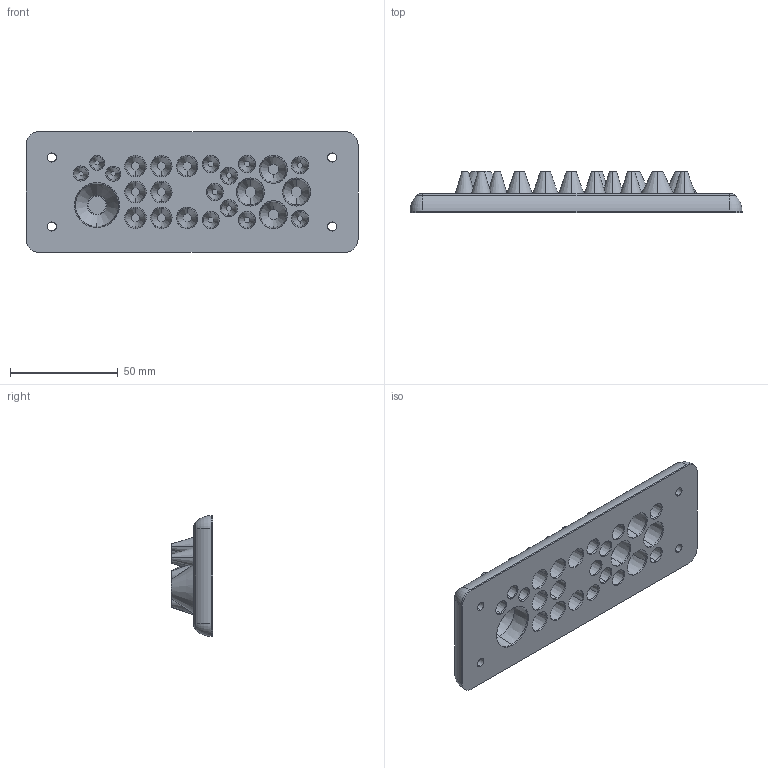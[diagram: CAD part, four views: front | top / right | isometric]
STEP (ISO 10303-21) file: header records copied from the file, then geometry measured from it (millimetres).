
FILE_DESCRIPTION (( 'STEP AP203' ), '1' );
FILE_NAME ('106714.STEP', '2016-02-15T10:25:24', ( '' ), ( '' ), 'SwSTEP 2.0', 'SolidWorks 2016', '' );
FILE_SCHEMA (( 'CONFIG_CONTROL_DESIGN' ));
Length unit declared in the file: millimetre
Products named in the file (1): 106714
Bounding box: 154 x 19.25 x 56 mm (x, y, z)
Volume: 60918.5 mm3; surface area: 33805.9 mm2
Topology: 1 solids, 2 shells, 301 faces, 732 edges, 463 vertices
Faces by surface type: cone 150, cylinder 74, plane 67, torus 10
Entity records: 9117 total; most frequent: DIRECTION 1832, CARTESIAN_POINT 1497, ORIENTED_EDGE 1464, AXIS2_PLACEMENT_3D 798, EDGE_CURVE 732, CIRCLE 496, VERTEX_POINT 463, EDGE_LOOP 339
